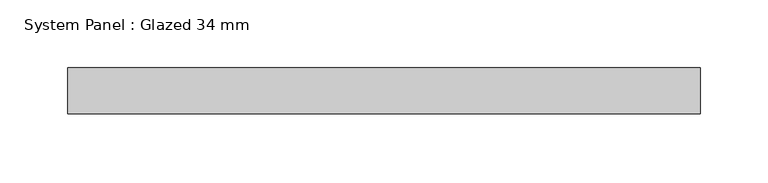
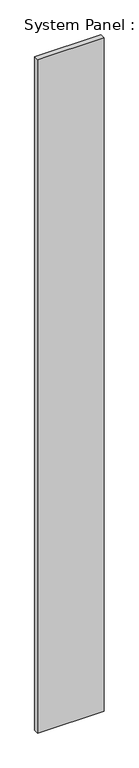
"""IFC4 building model written with IfcOpenShell, lengths in millimetres: plate geometry, System Panel : Glazed 34 mm."""

import ifcopenshell
import ifcopenshell.guid

model = None  # the IFC model being written
_history = None  # IfcOwnerHistory: only IFC2X3 demands one
_inside = {}  # id of a spatial element -> (the spatial element, [elements in it])
_under = {}  # id of a project, library or spatial element -> (it, [spatial elements below it])
_declared = {}  # id of a project -> (the project, [libraries it declares])
_typed = {}  # id of a type object -> (the type object, [elements of that type])
_made_of = {}  # id of a material, layer set ... -> (it, [elements and type objects made of it])


def new_model(schema):
    """Start an empty IFC model of exactly this schema.

    Asked for "IFC4X3", IfcOpenShell would pick the latest addendum, in which some entities
    have other attributes; the version numbers below select the first issue.
    IFC2X3 requires an IfcOwnerHistory on every rooted entity: one is made here for all.
    """
    global model, _history
    if schema == "IFC4X3":
        model = ifcopenshell.file(schema_version=(4, 3, 0, 0))
    else:
        model = ifcopenshell.file(schema=schema)
    _inside.clear()
    _under.clear()
    _declared.clear()
    _typed.clear()
    _made_of.clear()
    _history = None
    if model.schema == "IFC2X3":
        org = make("IfcOrganization", Name="unknown")
        user = make(
            "IfcPersonAndOrganization",
            ThePerson=make("IfcPerson", FamilyName="unknown"),
            TheOrganization=org,
        )
        app = make(
            "IfcApplication",
            ApplicationDeveloper=org,
            Version="unknown",
            ApplicationFullName="unknown",
            ApplicationIdentifier="unknown",
        )
        _history = make(
            "IfcOwnerHistory",
            OwningUser=user,
            OwningApplication=app,
            ChangeAction="ADDED",
            CreationDate=0,
        )
    return model


def make(cls, **values):
    """One entity of the class cls with the attributes given. An attribute that is None is left unset."""
    return model.create_entity(
        cls, **{name: value for name, value in values.items() if value is not None}
    )


def rooted(cls, **values):
    """An entity with a GlobalId (a new one), such as an element, a storey or a relation."""
    return make(cls, GlobalId=ifcopenshell.guid.new(), OwnerHistory=_history, **values)


def si_unit(unit_type, name, prefix=None):
    """IfcSIUnit, for example si_unit("LENGTHUNIT", "METRE", prefix="MILLI")."""
    return make("IfcSIUnit", UnitType=unit_type, Prefix=prefix, Name=name)


def assignment(units):
    """IfcUnitAssignment: the units of a project."""
    return None if units is None else make("IfcUnitAssignment", Units=units)


def point(xyz):
    """IfcCartesianPoint."""
    return None if xyz is None else make("IfcCartesianPoint", Coordinates=xyz)


def direction(xyz):
    """IfcDirection."""
    return None if xyz is None else make("IfcDirection", DirectionRatios=xyz)


def frame(location, z_axis=None, x_axis=None):
    """IfcAxis2Placement3D, a coordinate frame: its origin and axes. An axis left out is left unset."""
    return make(
        "IfcAxis2Placement3D",
        Location=point(location),
        Axis=direction(z_axis),
        RefDirection=direction(x_axis),
    )


def origin():
    """The frame at (0, 0, 0) with its axes left unset."""
    return frame((0.0, 0.0, 0.0))


def origin_with_axes():
    """The frame at (0, 0, 0) with the z axis (0, 0, 1) and the x axis (1, 0, 0) written out."""
    return frame((0.0, 0.0, 0.0), z_axis=(0.0, 0.0, 1.0), x_axis=(1.0, 0.0, 0.0))


def place(relative_to, where):
    """IfcLocalPlacement: puts the frame where relative to a parent placement (None: the world)."""
    return make(
        "IfcLocalPlacement", PlacementRelTo=relative_to, RelativePlacement=where
    )


def context(
    kind, dimensions, precision=None, world=None, true_north=None, identifier=None
):
    """IfcGeometricRepresentationContext, for example the 3D "Model" context."""
    return make(
        "IfcGeometricRepresentationContext",
        ContextIdentifier=identifier,
        ContextType=kind,
        CoordinateSpaceDimension=dimensions,
        Precision=precision,
        WorldCoordinateSystem=world,
        TrueNorth=true_north,
    )


def project(units=None, contexts=None):
    """IfcProject with its units and contexts."""
    return rooted(
        "IfcProject",
        Name="project",
        RepresentationContexts=contexts,
        UnitsInContext=assignment(units),
    )


def spatial(cls, under=None, at=None, **own):
    """A site, building, storey or space (cls), placed at a placement, below another one or the project."""
    s = rooted(cls, ObjectPlacement=at, **own)
    if under is not None:
        _under.setdefault(under.id(), (under, []))[1].append(s)
    return s


def polyline(points):
    """IfcPolyline through the points."""
    return make("IfcPolyline", Points=[point(p) for p in points])


def outline(outer, holes=None, kind="AREA"):
    """IfcArbitraryClosedProfileDef: a profile drawn as a closed curve; with holes, ...WithVoids."""
    if holes is None:
        return make("IfcArbitraryClosedProfileDef", ProfileType=kind, OuterCurve=outer)
    return make(
        "IfcArbitraryProfileDefWithVoids",
        ProfileType=kind,
        OuterCurve=outer,
        InnerCurves=holes,
    )


def extrude(swept, where, along, depth):
    """IfcExtrudedAreaSolid: the profile swept, set in the frame where, extruded along a direction by depth."""
    return make(
        "IfcExtrudedAreaSolid",
        SweptArea=swept,
        Position=where,
        ExtrudedDirection=direction(along),
        Depth=depth,
    )


def shape(context_of_items, identifier, shape_type, items):
    """IfcShapeRepresentation: the items that make up one representation, for example the "Body"."""
    return make(
        "IfcShapeRepresentation",
        ContextOfItems=context_of_items,
        RepresentationIdentifier=identifier,
        RepresentationType=shape_type,
        Items=items,
    )


def source(mapping_origin, context_of_items, identifier, shape_type, items):
    """IfcRepresentationMap: a shape defined once, which mapped items show again and again."""
    return make(
        "IfcRepresentationMap",
        MappingOrigin=mapping_origin,
        MappedRepresentation=shape(context_of_items, identifier, shape_type, items),
    )


def transform(
    local_origin,
    x_axis=None,
    y_axis=None,
    z_axis=None,
    scale=None,
    scale2=None,
    scale3=None,
    uniform=True,
):
    """IfcCartesianTransformationOperator3D, or its non-uniform kind. x_axis, y_axis, z_axis: its Axis1, 2, 3."""
    if uniform:
        return make(
            "IfcCartesianTransformationOperator3D",
            Axis1=direction(x_axis),
            Axis2=direction(y_axis),
            LocalOrigin=point(local_origin),
            Scale=scale,
            Axis3=direction(z_axis),
        )
    return make(
        "IfcCartesianTransformationOperator3DnonUniform",
        Axis1=direction(x_axis),
        Axis2=direction(y_axis),
        LocalOrigin=point(local_origin),
        Scale=scale,
        Axis3=direction(z_axis),
        Scale2=scale2,
        Scale3=scale3,
    )


def mapped(mapping_source, mapping_target):
    """IfcMappedItem: shows the shape of a source again, moved by a transform."""
    return make(
        "IfcMappedItem", MappingSource=mapping_source, MappingTarget=mapping_target
    )


def made_of(thing, what):
    """Note that an element or type object is made of a material, layer set ...; save() writes the relation."""
    if what is not None:
        _made_of.setdefault(what.id(), (what, []))[1].append(thing)
    return thing


def element(
    cls,
    number,
    at=None,
    inside=None,
    cuts=None,
    type_object=None,
    material=None,
    context=None,
    identifier="Body",
    shape_type=None,
    held_by="IfcProductDefinitionShape",
    body=None,
    shapes=None,
    **own,
):
    """One element of the class cls, such as IfcWall. Its Tag is "e" and its number.

    at: its placement. inside: the storey or other place that contains it. cuts: it is an
    opening in that element (IfcRelVoidsElement). A single representation is given by context,
    identifier, shape_type and body (its items); several are given by shapes. held_by: the class
    of the entity that holds the representations. save() writes the other relations.
    """
    e = rooted(cls, Tag="e%d" % number, ObjectPlacement=at, **own)
    if body is not None:
        shapes = [shape(context, identifier, shape_type, body)]
    if shapes is not None:
        e.Representation = make(held_by, Representations=shapes)
    if inside is not None:
        _inside.setdefault(inside.id(), (inside, []))[1].append(e)
    if cuts is not None:
        rooted(
            "IfcRelVoidsElement", RelatingBuildingElement=cuts, RelatedOpeningElement=e
        )
    if type_object is not None:
        _typed.setdefault(type_object.id(), (type_object, []))[1].append(e)
    return made_of(e, material)


def aggregate(whole, parts):
    """IfcRelAggregates: a whole, such as a stair, and the parts it consists of."""
    return rooted("IfcRelAggregates", RelatingObject=whole, RelatedObjects=parts)


def save(model, path):
    """Write the relations noted so far, then the file.

    IfcRelAggregates (storeys below a building ...), IfcRelContainedInSpatialStructure (elements
    in a storey), IfcRelDefinesByType, IfcRelAssociatesMaterial and IfcRelDeclares: one each for
    every whole, place, type object, material and project.
    """
    for whole, parts in _under.values():
        aggregate(whole, parts)
    for where, things in _inside.values():
        rooted(
            "IfcRelContainedInSpatialStructure",
            RelatedElements=things,
            RelatingStructure=where,
        )
    for kind, things in _typed.values():
        rooted("IfcRelDefinesByType", RelatedObjects=things, RelatingType=kind)
    for what, things in _made_of.values():
        rooted("IfcRelAssociatesMaterial", RelatedObjects=things, RelatingMaterial=what)
    for by, libraries in _declared.values():
        rooted("IfcRelDeclares", RelatingContext=by, RelatedDefinitions=libraries)
    model.write(path)


def system_panel_glazed_34_mm_9ade0035(model_context):
    return source(origin(), model_context, "Body", "SweptSolid", [
        extrude(outline(polyline([(233.6083333, -17.0), (-233.6083333, -17.0), (-233.6083333, 17.0), (233.6083333, 17.0), (233.6083333, -17.0)])), origin_with_axes(), (0.0, 0.0, 1.0), 5000.0),
    ])


if __name__ == "__main__":
    model = new_model("IFC4")
    model_context = context("Model", 3, world=origin())
    ifc_project = project(units=[si_unit("LENGTHUNIT", "METRE", prefix="MILLI")], contexts=[model_context])
    site = spatial("IfcSite", under=ifc_project)
    building = spatial("IfcBuilding", under=site)
    placement = place(None, origin())
    system_panel_glazed_34_mm_shape = system_panel_glazed_34_mm_9ade0035(model_context)
    element("IfcPlate", 1, ObjectType="System Panel : Glazed 34 mm", at=placement, inside=building, context=model_context, shape_type="MappedRepresentation", body=[
        mapped(system_panel_glazed_34_mm_shape, transform((0.0, 0.0, 0.0), x_axis=(1.0, 0.0, 0.0), y_axis=(0.0, 1.0, 0.0), z_axis=(0.0, 0.0, 1.0))),
    ])
    save(model, "model.ifc")
